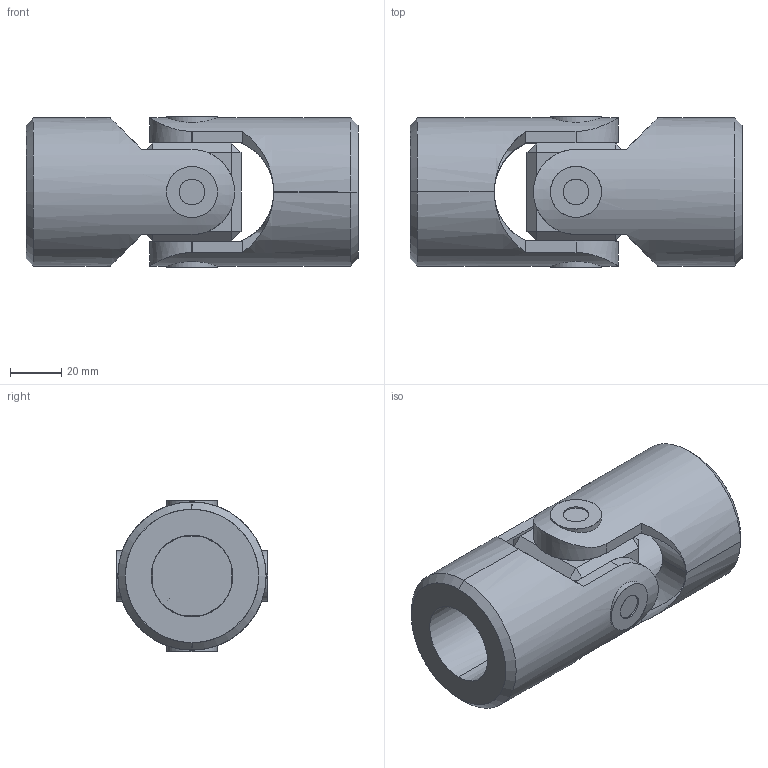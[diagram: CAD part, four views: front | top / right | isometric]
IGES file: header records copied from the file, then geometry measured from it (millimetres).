
Start section: SolidWorks IGES file using analytic representation for surfaces
Global section: file name: C:\Users\IanO\Desktop\R3690_v2\R3690_v2_20231020_IGES\R3690.032-RB.igs; native system: SolidWorks 2019; preprocessor: SolidWorks 2019; author: IanO; date: 231020.152338; units: millimetre
Bounding box: 130 x 59.16 x 59.16 mm (x, y, z)
Surface area: 57948.7 mm2 (no closed solid volume)
Topology: 0 solids, 0 shells, 104 faces, 2500 edges, 2500 vertices
Faces by surface type: bspline 56, revolution 48
